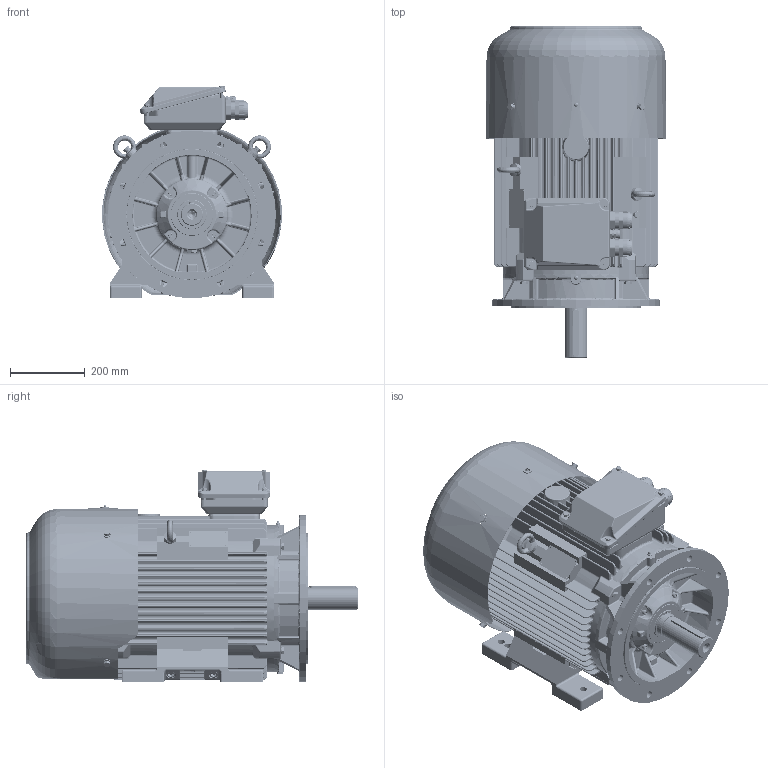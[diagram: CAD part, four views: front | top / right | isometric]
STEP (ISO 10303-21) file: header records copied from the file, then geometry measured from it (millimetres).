
FILE_DESCRIPTION(/* description */ ('Unknown'),/* implementation_level */ '2;1');
FILE_NAME(/* name */ 'SIE225L(4-12)-K',/* time_stamp */ '2021-12-28T13:29:49+01:00',/* author */ ('Unknown'),/* organization */ ('Unknown'),/* preprocessor_version */ 'ST-DEVELOPER v16.7',/* originating_system */ 'DEX',/* authorisation */ $);
FILE_SCHEMA (('AUTOMOTIVE_DESIGN {1 0 10303 214 3 1 1}'));
Products named in the file (1): SIE225L(4-12)-K
Bounding box: 482.33 x 890 x 570.4 mm (x, y, z)
Volume: 18873281.8 mm3; surface area: 4911649.5 mm2
Topology: 1 solids, 26 shells, 9600 faces, 25587 edges, 15841 vertices
Faces by surface type: plane 4837, cylinder 2325, bspline 1149, torus 744, cone 311, sphere 234
Full cylindrical faces by diameter (mm): 1.5 x2, 3 x2, 3.242 x2, 3.5 x4, 4 x2, 4.134 x2, 5 x2, 6 x6, 6.466 x5, 6.647 x12, 8 x15, 8.16 x5, 8.36 x2, 8.376 x7, 8.917 x2, 9 x9, 9.091 x1, 9.853 x4, 10 x23, 10.106 x8, 10.5 x4, 11 x1, 11.63 x5, 12 x8, 13 x7, 13.546 x4, 13.835 x4, 14 x10, 14.376 x9, 14.63 x5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
Entity records: 383810 total; most frequent: CARTESIAN_POINT 84191, ORIENTED_EDGE 49056, DIRECTION 46174, EDGE_CURVE 24528, AXIS2_PLACEMENT_3D 15738, VERTEX_POINT 15515, LINE 14698, VECTOR 14698
